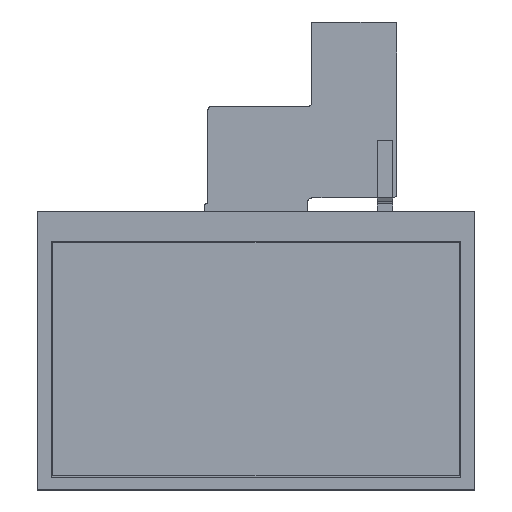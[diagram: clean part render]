
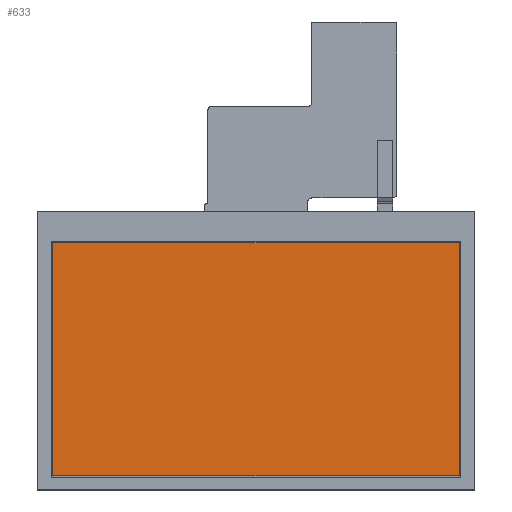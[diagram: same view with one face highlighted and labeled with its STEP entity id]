
A CAD part, top view. The second image highlights one B-rep face of the part: STEP entity #633.
In plain terms, the highlighted planar face has unit normal (0, 0, 1).
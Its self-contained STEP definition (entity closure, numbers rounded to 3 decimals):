
#1 = AXIS2_PLACEMENT_3D ( 'NONE', #792, #2540, #3710 ) ;
#11 = VERTEX_POINT ( 'NONE', #2473 ) ;
#30 = DIRECTION ( 'NONE',  ( 0., 1., 0. ) ) ;
#69 = VERTEX_POINT ( 'NONE', #3666 ) ;
#162 = CARTESIAN_POINT ( 'NONE',  ( 3.5, 31.254, 0.93 ) ) ;
#480 = FACE_OUTER_BOUND ( 'NONE', #907, .T. ) ;
#633 = ADVANCED_FACE ( 'NONE', ( #480 ), #1657, .T. ) ;
#681 = EDGE_CURVE ( 'NONE', #69, #2920, #874, .T. ) ;
#712 = VECTOR ( 'NONE', #2045, 1000. ) ;
#792 = CARTESIAN_POINT ( 'NONE',  ( 52.5, 31.254, 0.93 ) ) ;
#874 = LINE ( 'NONE', #1754, #3557 ) ;
#907 = EDGE_LOOP ( 'NONE', ( #3155, #1652, #3303, #1261 ) ) ;
#1056 = VECTOR ( 'NONE', #30, 1000. ) ;
#1159 = EDGE_CURVE ( 'NONE', #11, #2923, #2781, .T. ) ;
#1261 = ORIENTED_EDGE ( 'NONE', *, *, #1159, .F. ) ;
#1315 = DIRECTION ( 'NONE',  ( 1., 0., 0. ) ) ;
#1549 = CARTESIAN_POINT ( 'NONE',  ( 52.5, 3.1, 0.93 ) ) ;
#1652 = ORIENTED_EDGE ( 'NONE', *, *, #681, .F. ) ;
#1657 = PLANE ( 'NONE',  #1 ) ;
#1754 = CARTESIAN_POINT ( 'NONE',  ( 101.5, 31.254, 0.93 ) ) ;
#1774 = CARTESIAN_POINT ( 'NONE',  ( 3.5, 59.3, 0.93 ) ) ;
#2045 = DIRECTION ( 'NONE',  ( -1., 0., 0. ) ) ;
#2125 = CARTESIAN_POINT ( 'NONE',  ( 101.5, 3.1, 0.93 ) ) ;
#2473 = CARTESIAN_POINT ( 'NONE',  ( 3.5, 3.1, 0.93 ) ) ;
#2525 = CARTESIAN_POINT ( 'NONE',  ( 52.5, 59.3, 0.93 ) ) ;
#2540 = DIRECTION ( 'NONE',  ( 0., 0., 1. ) ) ;
#2760 = EDGE_CURVE ( 'NONE', #2923, #69, #3018, .T. ) ;
#2781 = LINE ( 'NONE', #162, #1056 ) ;
#2885 = EDGE_CURVE ( 'NONE', #2920, #11, #3460, .T. ) ;
#2920 = VERTEX_POINT ( 'NONE', #2125 ) ;
#2923 = VERTEX_POINT ( 'NONE', #1774 ) ;
#2954 = DIRECTION ( 'NONE',  ( 0., -1., 0. ) ) ;
#3018 = LINE ( 'NONE', #2525, #3297 ) ;
#3155 = ORIENTED_EDGE ( 'NONE', *, *, #2885, .F. ) ;
#3297 = VECTOR ( 'NONE', #1315, 1000. ) ;
#3303 = ORIENTED_EDGE ( 'NONE', *, *, #2760, .F. ) ;
#3460 = LINE ( 'NONE', #1549, #712 ) ;
#3557 = VECTOR ( 'NONE', #2954, 1000. ) ;
#3666 = CARTESIAN_POINT ( 'NONE',  ( 101.5, 59.3, 0.93 ) ) ;
#3710 = DIRECTION ( 'NONE',  ( 1., 0., 0. ) ) ;
